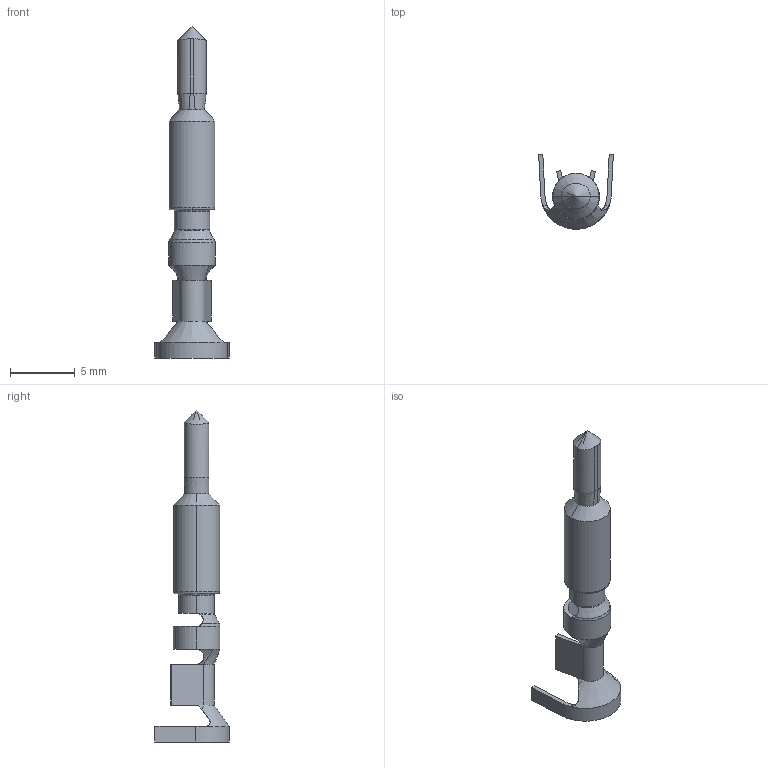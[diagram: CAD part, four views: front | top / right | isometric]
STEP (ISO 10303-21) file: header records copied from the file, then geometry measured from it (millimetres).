
FILE_DESCRIPTION (( 'STEP AP214' ), '1' );
FILE_NAME ('20689.STEP', '2011-07-06T13:55:48', ( 'Vicor Employee' ), ( 'Vicor Corporation' ), 'SwSTEP 2.0', 'SolidWorks 2010', '' );
FILE_SCHEMA (( 'AUTOMOTIVE_DESIGN' ));
Length unit declared in the file: inch
Products named in the file (1): 20689
Bounding box: 5.78 x 5.78 x 25.72 mm (x, y, z)
Volume: 120.2 mm3; surface area: 329.6 mm2
Topology: 1 solids, 1 shells, 83 faces, 199 edges, 115 vertices
Faces by surface type: plane 28, cylinder 25, bspline 24, cone 6
Entity records: 3580 total; most frequent: CARTESIAN_POINT 1841, ORIENTED_EDGE 394, DIRECTION 283, EDGE_CURVE 197, VERTEX_POINT 115, AXIS2_PLACEMENT_3D 96, LINE 91, VECTOR 91
